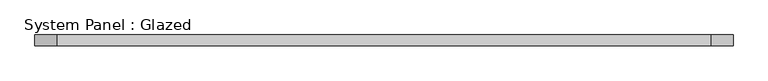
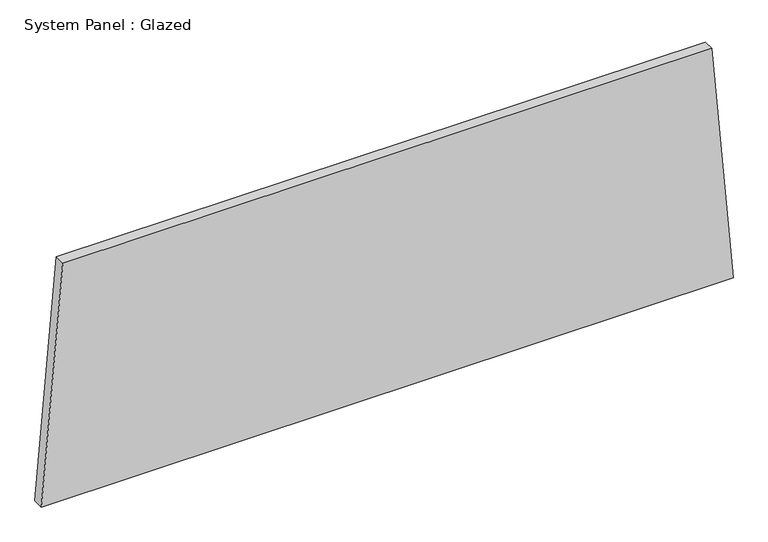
"""IFC4 building model written with IfcOpenShell, lengths in millimetres: plate geometry, System Panel : Glazed."""

from ifc_helpers import new_model, si_unit, frame, origin, place, context, project, spatial, polyline, outline, extrude, source, transform, mapped, element, save


def system_panel_glazed_86ca3999(model_context):
    return source(origin(), model_context, "Body", "SweptSolid", [
        extrude(outline(polyline([(0.0, -804.2494485), (0.0, 804.2494485), (581.9568348, 754.1866561), (581.9568348, -754.1866561), (0.0, -804.2494485)])), frame((0.0, 19.05, 0.0), z_axis=(0.0, 1.0, 0.0), x_axis=(0.0, 0.0, 1.0)), (0.0, 0.0, 1.0), 25.4),
    ])


if __name__ == "__main__":
    model = new_model("IFC4")
    model_context = context("Model", 3, world=origin())
    ifc_project = project(units=[si_unit("LENGTHUNIT", "METRE", prefix="MILLI")], contexts=[model_context])
    site = spatial("IfcSite", under=ifc_project)
    building = spatial("IfcBuilding", under=site)
    placement = place(None, origin())
    system_panel_glazed_shape = system_panel_glazed_86ca3999(model_context)
    element("IfcPlate", 1, ObjectType="System Panel : Glazed", at=placement, inside=building, context=model_context, shape_type="MappedRepresentation", body=[
        mapped(system_panel_glazed_shape, transform((0.0, 0.0, 0.0), x_axis=(1.0, 0.0, 0.0), y_axis=(0.0, 1.0, 0.0), z_axis=(0.0, 0.0, 1.0))),
    ])
    save(model, "model.ifc")
